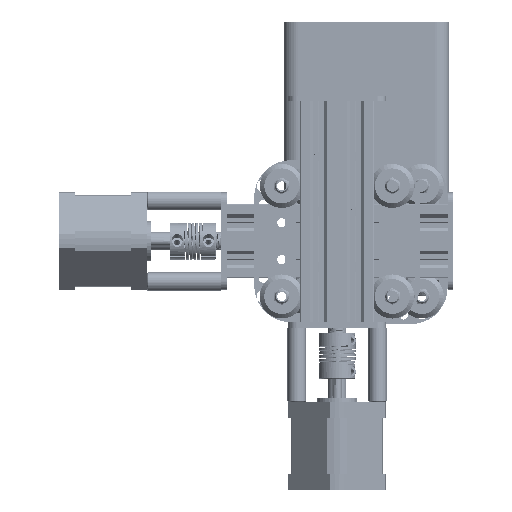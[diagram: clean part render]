
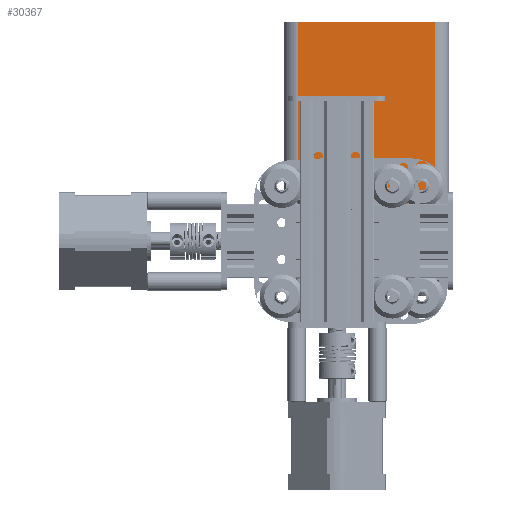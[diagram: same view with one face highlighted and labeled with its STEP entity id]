
A CAD part, left-side view. The second image highlights one B-rep face of the part: STEP entity #30367.
In plain terms, the highlighted planar face has unit normal (-1, 0, 0) as drawn and (0, -1, 0) by its records, which use the part's own axes.
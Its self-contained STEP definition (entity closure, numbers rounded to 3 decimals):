
#224 = DIRECTION ( 'NONE',  ( 1., 0., 0. ) ) ;
#386 = CARTESIAN_POINT ( 'NONE',  ( 37., -7.5, 0. ) ) ;
#769 = VERTEX_POINT ( 'NONE', #9463 ) ;
#2952 = EDGE_CURVE ( 'NONE', #14943, #39457, #33647, .T. ) ;
#2954 = VERTEX_POINT ( 'NONE', #386 ) ;
#3633 = DIRECTION ( 'NONE',  ( 0., 0., -1. ) ) ;
#3686 = LINE ( 'NONE', #26946, #24644 ) ;
#4068 = CARTESIAN_POINT ( 'NONE',  ( -37., -7.5, 100. ) ) ;
#8614 = ORIENTED_EDGE ( 'NONE', *, *, #11018, .T. ) ;
#8781 = VECTOR ( 'NONE', #18411, 1000. ) ;
#9463 = CARTESIAN_POINT ( 'NONE',  ( 37., -7.5, 100. ) ) ;
#11018 = EDGE_CURVE ( 'NONE', #2954, #769, #41331, .T. ) ;
#11490 = ORIENTED_EDGE ( 'NONE', *, *, #41065, .F. ) ;
#14372 = CARTESIAN_POINT ( 'NONE',  ( 45., -7.5, 100. ) ) ;
#14943 = VERTEX_POINT ( 'NONE', #21490 ) ;
#15196 = DIRECTION ( 'NONE',  ( 0., 0., 1. ) ) ;
#17302 = VECTOR ( 'NONE', #3633, 1000. ) ;
#18411 = DIRECTION ( 'NONE',  ( 1., 0., 0. ) ) ;
#21302 = DIRECTION ( 'NONE',  ( 0., 1., 0. ) ) ;
#21490 = CARTESIAN_POINT ( 'NONE',  ( -37., -7.5, 100. ) ) ;
#21677 = LINE ( 'NONE', #25371, #8781 ) ;
#21688 = AXIS2_PLACEMENT_3D ( 'NONE', #14372, #21302, #34579 ) ;
#23935 = VECTOR ( 'NONE', #15196, 1000. ) ;
#24644 = VECTOR ( 'NONE', #224, 1000. ) ;
#25371 = CARTESIAN_POINT ( 'NONE',  ( 45., -7.5, 100. ) ) ;
#26946 = CARTESIAN_POINT ( 'NONE',  ( 45., -7.5, 0. ) ) ;
#27823 = FACE_OUTER_BOUND ( 'NONE', #27930, .T. ) ;
#27930 = EDGE_LOOP ( 'NONE', ( #11490, #30316, #35746, #8614 ) ) ;
#30316 = ORIENTED_EDGE ( 'NONE', *, *, #2952, .T. ) ;
#30367 = ADVANCED_FACE ( 'NONE', ( #27823 ), #38068, .F. ) ;
#33647 = LINE ( 'NONE', #4068, #17302 ) ;
#33966 = EDGE_CURVE ( 'NONE', #39457, #2954, #3686, .T. ) ;
#34579 = DIRECTION ( 'NONE',  ( 0., 0., 1. ) ) ;
#35746 = ORIENTED_EDGE ( 'NONE', *, *, #33966, .T. ) ;
#36602 = CARTESIAN_POINT ( 'NONE',  ( -37., -7.5, 0. ) ) ;
#37397 = CARTESIAN_POINT ( 'NONE',  ( 37., -7.5, 100. ) ) ;
#38068 = PLANE ( 'NONE',  #21688 ) ;
#39457 = VERTEX_POINT ( 'NONE', #36602 ) ;
#41065 = EDGE_CURVE ( 'NONE', #14943, #769, #21677, .T. ) ;
#41331 = LINE ( 'NONE', #37397, #23935 ) ;
